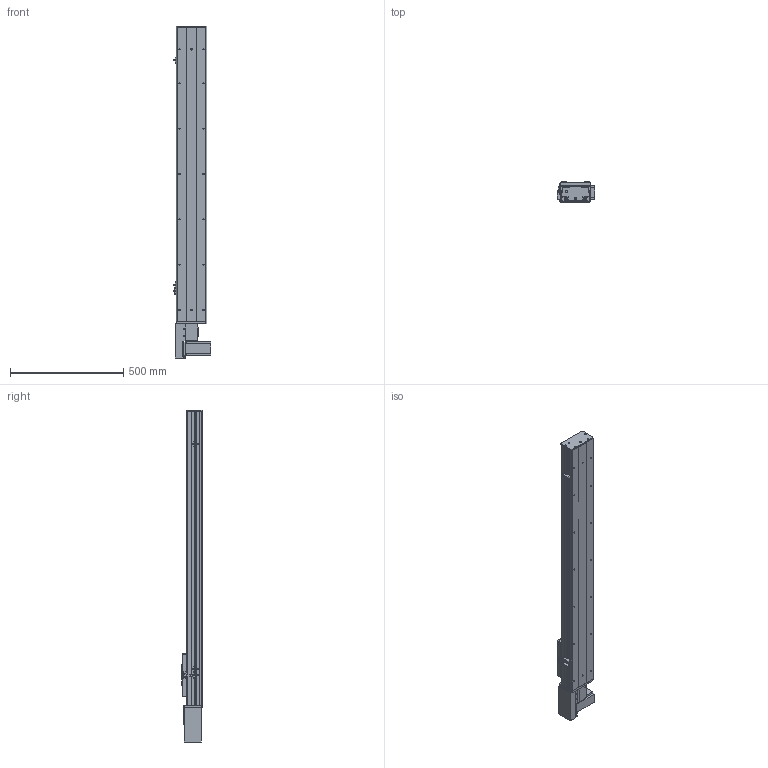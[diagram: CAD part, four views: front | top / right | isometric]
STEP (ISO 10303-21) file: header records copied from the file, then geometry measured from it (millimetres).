
FILE_DESCRIPTION (( 'STEP AP203' ), '1' );
FILE_NAME ('Y135CB-D90-S1000-BR-P400W.STEP', '2020-02-18T02:29:25', ( '微软用户' ), ( '微软中国' ), 'SwSTEP 2.0', 'SolidWorks 2017', '' );
FILE_SCHEMA (( 'CONFIG_CONTROL_DESIGN' ));
Length unit declared in the file: millimetre
Products named in the file (18): 5C--俋欶; 35CB---喘謫眊楊擘啣; C-雄赽釱--; 0B-萇儂楊擘啣; Y10B-耜蚾蟀諉啣----; Y10B--々湍喘謫眊--666; san松下电机400不带刹车----; Y俋欶BR----; Y135CB-D90-S1000-BR-P400W; 5CB --掛极耜裔啣-; 0B-埴倛裔啣; C-詩湍揤踡え-陔; 0B-源倛裔啣; 135CB--詩湍-CE; Y100-135俋离換覜ん--; Y135CB-耜裔; Y135C-陔俋离換覜結え-; 135CB---遴掛极.-
Assembly tree (21 placements, depth 2):
  Y135CB-D90-S1000-BR-P400W
    Y135CB-耜裔
    135CB---遴掛极.-
    35CB---喘謫眊楊擘啣
    Y10B-耜蚾蟀諉啣----
    Y俋欶BR----
    0B-埴倛裔啣
    0B-源倛裔啣
    0B-萇儂楊擘啣
    san松下电机400不带刹车----
    5CB --掛极耜裔啣-  x2
    C-詩湍揤踡え-陔  x2
    135CB--詩湍-CE
    Y100-135俋离換覜ん--  x3
    Y135C-陔俋离換覜結え-
    5C--俋欶
    C-雄赽釱--
    Y10B--々湍喘謫眊--666
Bounding box: 167.5 x 91 x 1464.5 mm (x, y, z)
Volume: 4387302.3 mm3; surface area: 1717325.5 mm2
Topology: 21 solids, 21 shells, 945 faces, 2527 edges, 1674 vertices
Faces by surface type: cylinder 471, plane 458, cone 16
Entity records: 29341 total; most frequent: DIRECTION 4871, CARTESIAN_POINT 4812, ORIENTED_EDGE 4530, EDGE_CURVE 2265, AXIS2_PLACEMENT_3D 1773, VERTEX_POINT 1502, LINE 1325, VECTOR 1325
